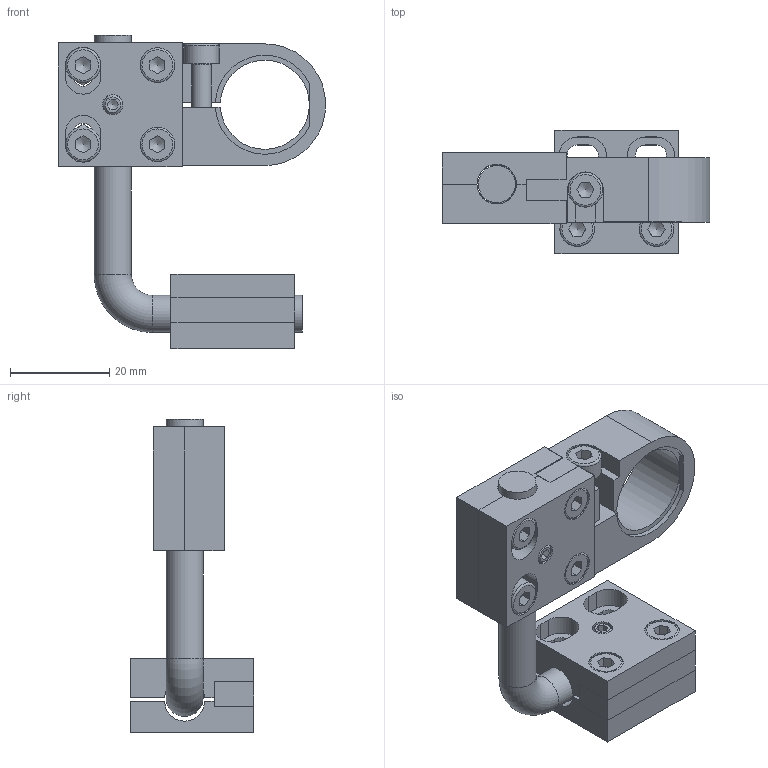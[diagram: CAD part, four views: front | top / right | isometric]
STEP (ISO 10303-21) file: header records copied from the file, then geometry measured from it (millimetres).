
FILE_DESCRIPTION(/* description */ (''),/* implementation_level */ '2;1');
FILE_NAME(/* name */ 'C:\#Vault-WorkDir\Konstruktions-Dokumente\Projekte\Zubehör allgemein\153-01016_MS M5-30_0.stp',/* time_stamp */ '2015-08-13T09:33:15+02:00',/* author */ ('sandra.stahl'),/* organization */ (''),/* preprocessor_version */ 'ST-DEVELOPER v15.2',/* originating_system */ 'Autodesk Inventor 2014',/* authorisation */ '');
FILE_SCHEMA (('AUTOMOTIVE_DESIGN { 1 0 10303 214 3 1 1 }'));
Length unit declared in the file: millimetre
Products named in the file (1): GH-ENG-0012278
Bounding box: 54 x 25 x 63.25 mm (x, y, z)
Volume: 22186.8 mm3; surface area: 20198 mm2
Topology: 24 solids, 24 shells, 478 faces, 1188 edges, 767 vertices
Faces by surface type: plane 328, cylinder 83, cone 52, torus 15
Full cylindrical faces by diameter (mm): 3.242 x8, 4 x11, 4.1 x10, 7 x11, 7.5 x2
Entity records: 13810 total; most frequent: CARTESIAN_POINT 2587, ORIENTED_EDGE 2120, DIRECTION 2116, EDGE_CURVE 1060, VERTEX_POINT 748, AXIS2_PLACEMENT_3D 727, EDGE_LOOP 664, LINE 662
